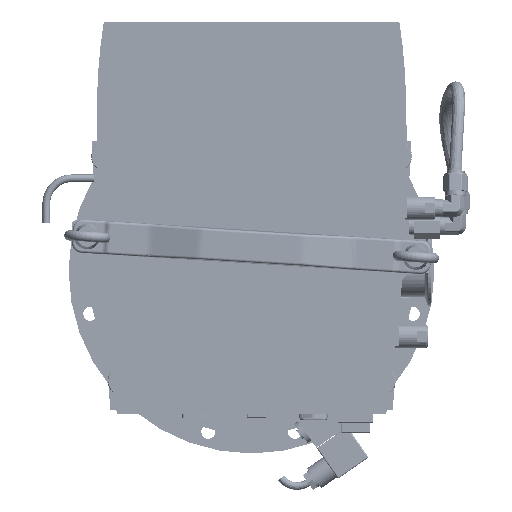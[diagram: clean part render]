
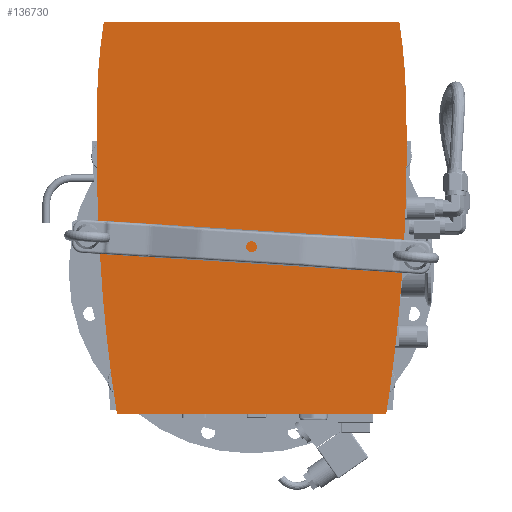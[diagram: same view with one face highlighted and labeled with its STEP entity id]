
A CAD part, front view. The second image highlights one B-rep face of the part: STEP entity #136730.
In plain terms, the highlighted planar face has unit normal (0, -1, 0).
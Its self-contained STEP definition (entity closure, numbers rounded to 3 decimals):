
#28306=CARTESIAN_POINT('',(-1177.573,-133.4,88.6));
#28307=DIRECTION('',(0.,-1.,0.));
#28308=DIRECTION('',(0.995,0.,-0.1));
#28309=AXIS2_PLACEMENT_3D('',#28306,#28307,#28308);
#28311=DIRECTION('',(0.108,0.,0.994));
#28312=VECTOR('',#28311,21.233);
#28313=CARTESIAN_POINT('',(111.698,-133.4,-61.844));
#28314=LINE('',#28313,#28312);
#28315=CARTESIAN_POINT('',(-1177.573,-133.4,88.6));
#28316=DIRECTION('',(0.,-1.,0.));
#28317=DIRECTION('',(0.988,0.,-0.154));
#28318=AXIS2_PLACEMENT_3D('',#28315,#28316,#28317);
#28320=DIRECTION('',(1.,0.,0.));
#28321=VECTOR('',#28320,209.891);
#28322=CARTESIAN_POINT('',(-104.945,-133.4,-111.4));
#28323=LINE('',#28322,#28321);
#28324=CARTESIAN_POINT('',(1177.573,-133.4,88.6));
#28325=DIRECTION('',(0.,-1.,0.));
#28326=DIRECTION('',(-0.997,0.,-0.084));
#28327=AXIS2_PLACEMENT_3D('',#28324,#28325,#28326);
#28329=CARTESIAN_POINT('',(1281.834,-133.4,97.345));
#28330=DIRECTION('',(0.,-1.,0.));
#28331=DIRECTION('',(-1.,0.,0.028));
#28332=AXIS2_PLACEMENT_3D('',#28329,#28330,#28331);
#28334=CARTESIAN_POINT('',(340.523,-133.4,123.6));
#28335=DIRECTION('',(0.,-1.,0.));
#28336=DIRECTION('',(-0.988,0.,0.152));
#28337=AXIS2_PLACEMENT_3D('',#28334,#28335,#28336);
#28339=DIRECTION('',(-1.,0.,0.));
#28340=VECTOR('',#28339,230.2);
#28341=CARTESIAN_POINT('',(115.1,-133.4,193.6));
#28342=LINE('',#28341,#28340);
#28343=CARTESIAN_POINT('',(-340.523,-133.4,123.6));
#28344=DIRECTION('',(0.,-1.,0.));
#28345=DIRECTION('',(1.,0.,0.028));
#28346=AXIS2_PLACEMENT_3D('',#28343,#28344,#28345);
#28348=CARTESIAN_POINT('',(-1282.134,-133.4,97.353));
#28349=DIRECTION('',(0.,-1.,0.));
#28350=DIRECTION('',(1.,0.,-0.027));
#28351=AXIS2_PLACEMENT_3D('',#28348,#28349,#28350);
#28353=DIRECTION('',(0.035,0.,0.999));
#28354=VECTOR('',#28353,20.925);
#28355=CARTESIAN_POINT('',(119.563,-133.4,38.18));
#28356=LINE('',#28355,#28354);
#28357=CARTESIAN_POINT('',(-1282.134,-133.4,97.353));
#28358=DIRECTION('',(0.,-1.,0.));
#28359=DIRECTION('',(0.997,0.,-0.083));
#28360=AXIS2_PLACEMENT_3D('',#28357,#28358,#28359);
#66417=CARTESIAN_POINT('',(113.987,-133.4,-40.734));
#66418=CARTESIAN_POINT('',(115.922,-133.4,-19.682));
#66419=VERTEX_POINT('',#66417);
#66420=VERTEX_POINT('',#66418);
#66421=CARTESIAN_POINT('',(119.563,-133.4,38.18));
#66422=VERTEX_POINT('',#66421);
#66423=CARTESIAN_POINT('',(120.29,-133.4,59.092));
#66424=VERTEX_POINT('',#66423);
#66425=CARTESIAN_POINT('',(120.267,-133.4,136.444));
#66426=VERTEX_POINT('',#66425);
#66427=CARTESIAN_POINT('',(115.1,-133.4,193.6));
#66428=VERTEX_POINT('',#66427);
#66429=CARTESIAN_POINT('',(-115.1,-133.4,193.6));
#66430=VERTEX_POINT('',#66429);
#66431=CARTESIAN_POINT('',(-120.267,-133.4,136.452));
#66432=VERTEX_POINT('',#66431);
#66433=CARTESIAN_POINT('',(-115.904,-133.4,-19.889));
#66434=VERTEX_POINT('',#66433);
#66435=CARTESIAN_POINT('',(-104.945,-133.4,-111.4));
#66436=VERTEX_POINT('',#66435);
#66437=CARTESIAN_POINT('',(104.945,-133.4,-111.4));
#66438=VERTEX_POINT('',#66437);
#66439=CARTESIAN_POINT('',(111.698,-133.4,-61.844));
#66440=VERTEX_POINT('',#66439);
#136700=CARTESIAN_POINT('',(0.,-133.4,194.6));
#136701=DIRECTION('',(0.,-1.,0.));
#136702=DIRECTION('',(0.,0.,-1.));
#136703=AXIS2_PLACEMENT_3D('',#136700,#136701,#136702);
#136704=PLANE('',#136703);
#136705=ORIENTED_EDGE('',*,*,#136690,.F.);
#136707=ORIENTED_EDGE('',*,*,#136706,.F.);
#136709=ORIENTED_EDGE('',*,*,#136708,.F.);
#136711=ORIENTED_EDGE('',*,*,#136710,.F.);
#136713=ORIENTED_EDGE('',*,*,#136712,.F.);
#136715=ORIENTED_EDGE('',*,*,#136714,.F.);
#136717=ORIENTED_EDGE('',*,*,#136716,.F.);
#136719=ORIENTED_EDGE('',*,*,#136718,.F.);
#136721=ORIENTED_EDGE('',*,*,#136720,.F.);
#136723=ORIENTED_EDGE('',*,*,#136722,.F.);
#136725=ORIENTED_EDGE('',*,*,#136724,.F.);
#136727=ORIENTED_EDGE('',*,*,#136726,.F.);
#136728=EDGE_LOOP('',(#136705,#136707,#136709,#136711,#136713,#136715,#136717,
#136719,#136721,#136723,#136725,#136727));
#136729=FACE_OUTER_BOUND('',#136728,.F.);
#136730=ADVANCED_FACE('',(#136729),#136704,.T.);
#28310=CIRCLE('',#28309,1298.019);
#28319=CIRCLE('',#28318,1298.019);
#28328=CIRCLE('',#28327,1298.019);
#28333=CIRCLE('',#28332,1402.646);
#28338=CIRCLE('',#28337,460.969);
#28347=CIRCLE('',#28346,460.969);
#28352=CIRCLE('',#28351,1402.946);
#28361=CIRCLE('',#28360,1402.946);
#136690=EDGE_CURVE('',#66419,#66420,#28310,.T.);
#136706=EDGE_CURVE('',#66440,#66419,#28314,.T.);
#136708=EDGE_CURVE('',#66438,#66440,#28319,.T.);
#136710=EDGE_CURVE('',#66436,#66438,#28323,.T.);
#136712=EDGE_CURVE('',#66434,#66436,#28328,.T.);
#136714=EDGE_CURVE('',#66432,#66434,#28333,.T.);
#136716=EDGE_CURVE('',#66430,#66432,#28338,.T.);
#136718=EDGE_CURVE('',#66428,#66430,#28342,.T.);
#136720=EDGE_CURVE('',#66426,#66428,#28347,.T.);
#136722=EDGE_CURVE('',#66424,#66426,#28352,.T.);
#136724=EDGE_CURVE('',#66422,#66424,#28356,.T.);
#136726=EDGE_CURVE('',#66420,#66422,#28361,.T.);
